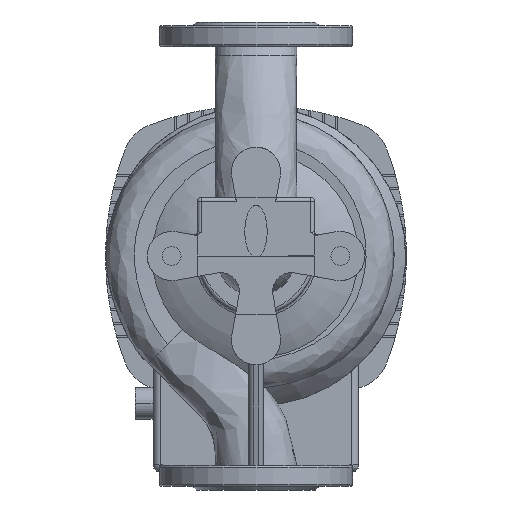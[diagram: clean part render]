
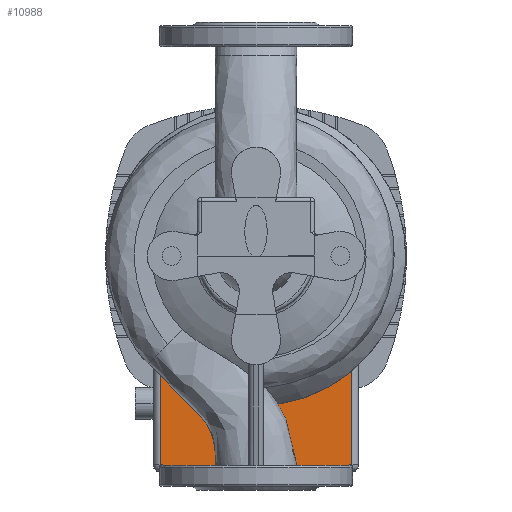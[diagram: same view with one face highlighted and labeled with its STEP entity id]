
A CAD part, front view. The second image highlights one B-rep face of the part: STEP entity #10988.
In plain terms, the highlighted planar face has unit normal (0, -1, 0) as drawn and (0, 0, 1) by its records, which use the part's own axes.
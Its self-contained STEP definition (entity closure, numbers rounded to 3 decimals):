
#19 = DIRECTION ( 'NONE',  ( 0., -1., 0. ) ) ;
#277 = AXIS2_PLACEMENT_3D ( 'NONE', #16387, #1641, #19 ) ;
#598 = EDGE_CURVE ( 'NONE', #18856, #2173, #23583, .T. ) ;
#1011 = EDGE_CURVE ( 'NONE', #5367, #18856, #4993, .T. ) ;
#1323 = EDGE_CURVE ( 'NONE', #2173, #8032, #18050, .T. ) ;
#1641 = DIRECTION ( 'NONE',  ( 0., 0., 1. ) ) ;
#2173 = VERTEX_POINT ( 'NONE', #15405 ) ;
#3004 = ORIENTED_EDGE ( 'NONE', *, *, #1323, .T. ) ;
#3019 = CARTESIAN_POINT ( 'NONE',  ( 0., 0., -140.5 ) ) ;
#3745 = VECTOR ( 'NONE', #25949, 1000. ) ;
#3916 = DIRECTION ( 'NONE',  ( 0., 0., 1. ) ) ;
#4255 = ORIENTED_EDGE ( 'NONE', *, *, #598, .T. ) ;
#4993 = LINE ( 'NONE', #19607, #3745 ) ;
#5275 = CARTESIAN_POINT ( 'NONE',  ( -82., 72.569, -140.5 ) ) ;
#5367 = VERTEX_POINT ( 'NONE', #19402 ) ;
#5896 = ORIENTED_EDGE ( 'NONE', *, *, #1011, .T. ) ;
#7983 = CARTESIAN_POINT ( 'NONE',  ( 68., 128.5, -140.5 ) ) ;
#8032 = VERTEX_POINT ( 'NONE', #5275 ) ;
#9689 = CARTESIAN_POINT ( 'NONE',  ( 82., 178.436, -140.5 ) ) ;
#10019 = FACE_OUTER_BOUND ( 'NONE', #13252, .T. ) ;
#10988 = ADVANCED_FACE ( 'NONE', ( #10019 ), #12176, .T. ) ;
#11268 = DIRECTION ( 'NONE',  ( 0., 0., -1. ) ) ;
#12176 = PLANE ( 'NONE',  #12435 ) ;
#12435 = AXIS2_PLACEMENT_3D ( 'NONE', #7983, #3916, #20427 ) ;
#13252 = EDGE_LOOP ( 'NONE', ( #13284, #5896, #4255, #3004 ) ) ;
#13284 = ORIENTED_EDGE ( 'NONE', *, *, #15589, .T. ) ;
#14255 = CIRCLE ( 'NONE', #19869, 109.5 ) ;
#15405 = CARTESIAN_POINT ( 'NONE',  ( -82., 178.436, -140.5 ) ) ;
#15589 = EDGE_CURVE ( 'NONE', #8032, #5367, #14255, .T. ) ;
#16251 = VECTOR ( 'NONE', #17917, 1000. ) ;
#16387 = CARTESIAN_POINT ( 'NONE',  ( 0., -423., -140.5 ) ) ;
#17917 = DIRECTION ( 'NONE',  ( 0., -1., 0. ) ) ;
#18050 = LINE ( 'NONE', #21963, #16251 ) ;
#18856 = VERTEX_POINT ( 'NONE', #9689 ) ;
#19402 = CARTESIAN_POINT ( 'NONE',  ( 82., 72.569, -140.5 ) ) ;
#19607 = CARTESIAN_POINT ( 'NONE',  ( 82., 128.5, -140.5 ) ) ;
#19869 = AXIS2_PLACEMENT_3D ( 'NONE', #3019, #11268, #23562 ) ;
#20427 = DIRECTION ( 'NONE',  ( 0., -1., 0. ) ) ;
#21963 = CARTESIAN_POINT ( 'NONE',  ( -82., 128.5, -140.5 ) ) ;
#23562 = DIRECTION ( 'NONE',  ( 1., 0., 0. ) ) ;
#23583 = CIRCLE ( 'NONE', #277, 607. ) ;
#25949 = DIRECTION ( 'NONE',  ( 0., 1., 0. ) ) ;
